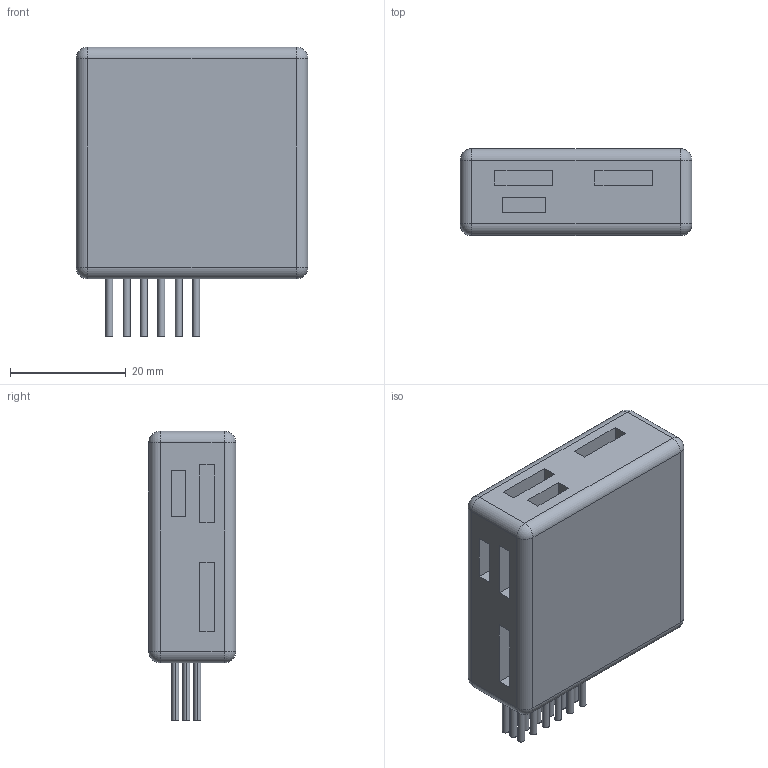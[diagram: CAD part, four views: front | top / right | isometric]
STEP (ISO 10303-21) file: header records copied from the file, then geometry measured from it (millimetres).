
FILE_DESCRIPTION (( 'STEP AP214' ), '1' );
FILE_NAME ('Pixracer.STEP', '2019-08-23T08:57:42', ( '' ), ( '' ), 'SwSTEP 2.0', 'SolidWorks 2018', '' );
FILE_SCHEMA (( 'AUTOMOTIVE_DESIGN' ));
Length unit declared in the file: millimetre
Products named in the file (1): Pixracer
Bounding box: 40 x 15.1 x 50 mm (x, y, z)
Volume: 22200.5 mm3; surface area: 7950.2 mm2
Topology: 13 solids, 13 shells, 480 faces, 1256 edges, 824 vertices
Faces by surface type: bspline 286, plane 134, cylinder 52, sphere 8
Entity records: 28886 total; most frequent: CARTESIAN_POINT 13551, ORIENTED_EDGE 2496, EDGE_CURVE 1248, DIRECTION 1170, VERTEX_POINT 824, B_SPLINE_CURVE_WITH_KNOTS 572, VECTOR 572, LINE 572
